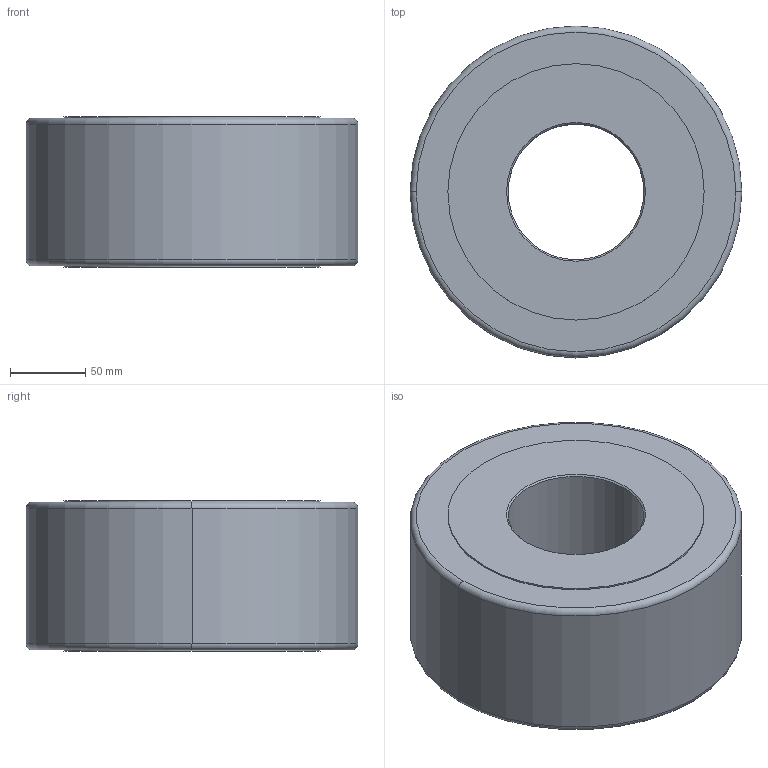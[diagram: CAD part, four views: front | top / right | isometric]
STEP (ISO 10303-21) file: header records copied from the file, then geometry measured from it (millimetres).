
FILE_DESCRIPTION (( 'STEP AP214' ), '1' );
FILE_NAME ('3DRSU90-220.STEP', '2013-12-19T09:42:17', ( 'usuario' ), ( 'Hewlett-Packard Company' ), 'SwSTEP 2.0', 'SolidWorks 2017', '' );
FILE_SCHEMA (( 'AUTOMOTIVE_DESIGN' ));
Length unit declared in the file: millimetre
Products named in the file (1): 3DRSU90-220
Bounding box: 220 x 220 x 100 mm (x, y, z)
Volume: 3129506.1 mm3; surface area: 157662 mm2
Topology: 1 solids, 1 shells, 20 faces, 40 edges, 24 vertices
Faces by surface type: cylinder 8, cone 4, torus 4, plane 4
Entity records: 566 total; most frequent: DIRECTION 110, CARTESIAN_POINT 85, ORIENTED_EDGE 80, AXIS2_PLACEMENT_3D 49, EDGE_CURVE 40, CIRCLE 28, VERTEX_POINT 24, EDGE_LOOP 24
